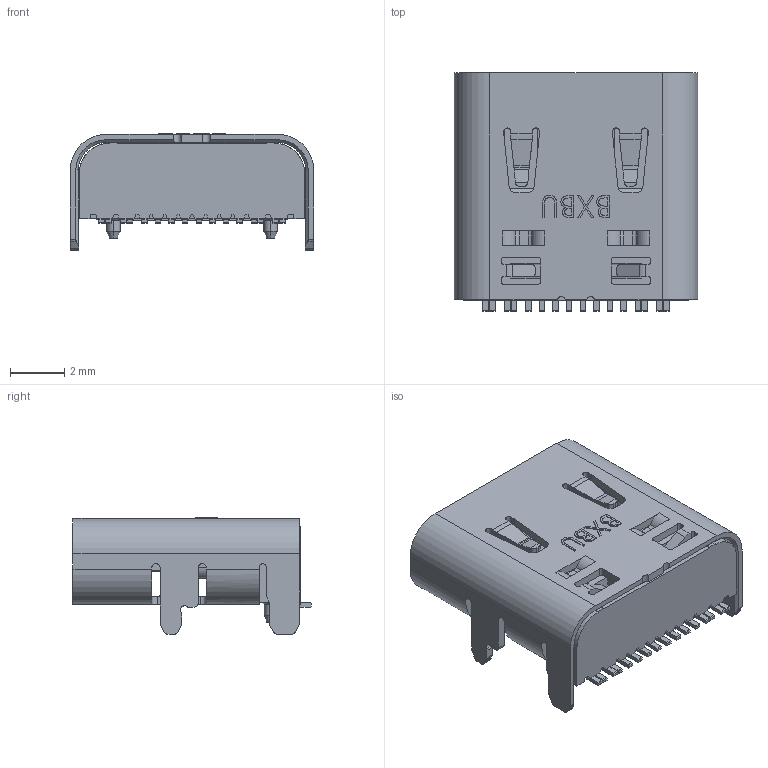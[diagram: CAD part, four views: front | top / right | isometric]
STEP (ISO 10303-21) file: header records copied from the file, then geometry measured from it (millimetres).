
FILE_DESCRIPTION (( 'STEP AP214' ), '1' );
FILE_NAME ('U5092-16PNT8.35L..STEP', '2026-05-22T01:08:20', ( '' ), ( '' ), 'SwSTEP 2.0', 'SolidWorks 2024', '' );
FILE_SCHEMA (( 'AUTOMOTIVE_DESIGN' ));
Length unit declared in the file: millimetre
Products named in the file (1): U5092-16PNT8.35L.
Bounding box: 8.94 x 8.75 x 4.29 mm (x, y, z)
Volume: 121.3 mm3; surface area: 524.2 mm2
Topology: 1 solids, 1 shells, 849 faces, 2428 edges, 1574 vertices
Faces by surface type: plane 527, cylinder 255, bspline 33, cone 18, torus 16
Entity records: 29058 total; most frequent: CARTESIAN_POINT 6810, ORIENTED_EDGE 4856, DIRECTION 4441, EDGE_CURVE 2428, VECTOR 1767, LINE 1767, VERTEX_POINT 1574, AXIS2_PLACEMENT_3D 1337
